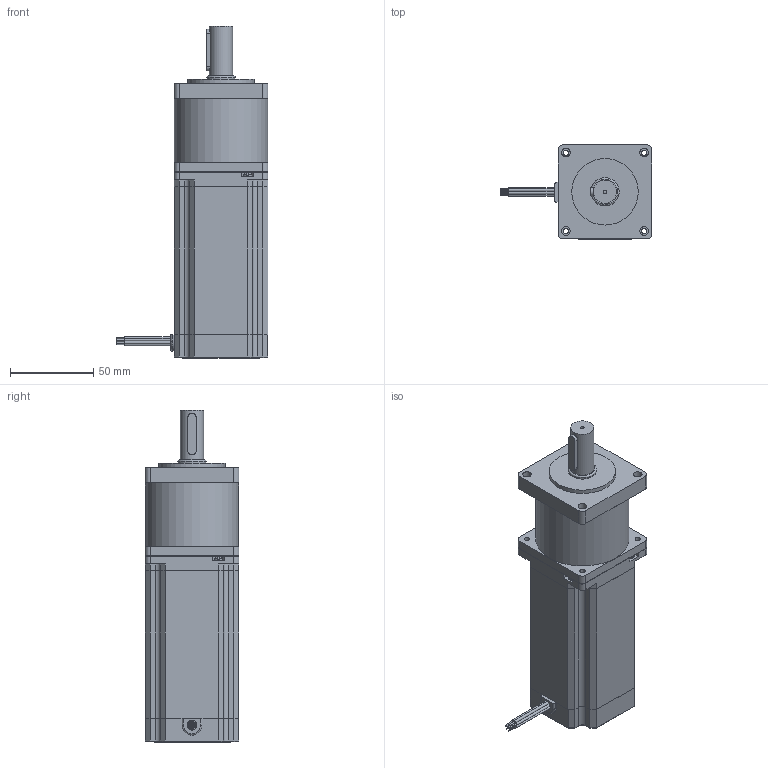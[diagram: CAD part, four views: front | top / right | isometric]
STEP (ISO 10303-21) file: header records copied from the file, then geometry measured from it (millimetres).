
FILE_DESCRIPTION(/* description */ (''),/* implementation_level */ '2;1');
FILE_NAME(/* name */ '\\JOINapp01\Profiles\martins\Desktop\MOTO REDUTORES MP\KTC-H23-402.8-R4.step',/* time_stamp */ '2018-03-29T09:57:56-03:00',/* author */ ('martins'),/* organization */ (''),/* preprocessor_version */ 'ST-DEVELOPER v16.1',/* originating_system */ 'Autodesk Inventor 2016',/* authorisation */ '');
FILE_SCHEMA (('AUTOMOTIVE_DESIGN { 1 0 10303 214 3 1 1 }'));
Length unit declared in the file: millimetre
Products named in the file (1): KTC-H23-402.8-R4
Bounding box: 91.4 x 56.5 x 199.7 mm (x, y, z)
Volume: 464872.6 mm3; surface area: 46802.7 mm2
Topology: 1 solids, 3 shells, 666 faces, 1729 edges, 1134 vertices
Faces by surface type: plane 410, bspline 111, cylinder 102, torus 22, cone 21
Full cylindrical faces by diameter (mm): 0.7 x8, 1.6 x8, 2.013 x7, 3.242 x4, 5 x8, 5.2 x4, 5.935 x1, 8 x1, 10.5 x1, 11 x1, 14 x1, 17 x1, 40 x1, 56 x1
Entity records: 21184 total; most frequent: CARTESIAN_POINT 5596, ORIENTED_EDGE 3298, DIRECTION 2749, EDGE_CURVE 1649, LINE 1145, VECTOR 1145, VERTEX_POINT 1115, EDGE_LOOP 810
